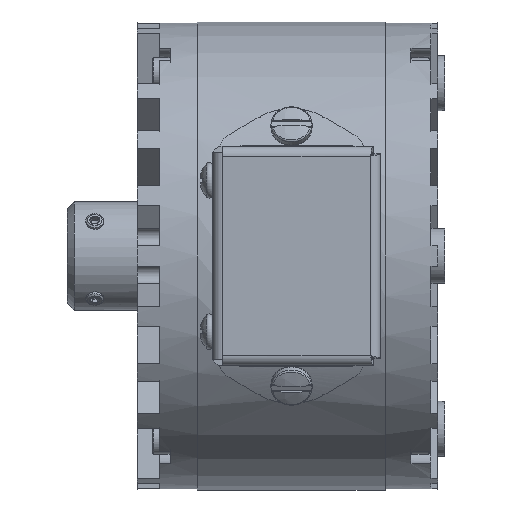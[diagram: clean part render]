
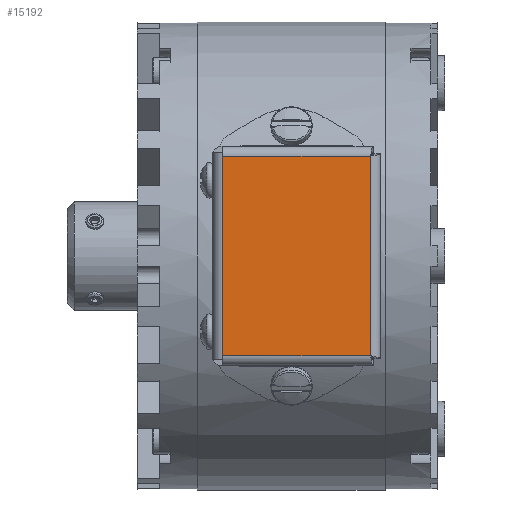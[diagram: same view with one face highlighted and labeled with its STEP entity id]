
A CAD part, left-side view. The second image highlights one B-rep face of the part: STEP entity #15192.
In plain terms, the highlighted planar face has unit normal (-1, 0, 0).
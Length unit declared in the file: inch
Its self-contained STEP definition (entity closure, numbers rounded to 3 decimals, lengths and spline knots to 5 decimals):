
#362=PLANE('',#16344);
#2046=FACE_OUTER_BOUND('',#3010,.T.);
#3010=EDGE_LOOP('',(#10884,#10885,#10886,#10887));
#4250=LINE('',#24303,#5396);
#4251=LINE('',#24304,#5397);
#4252=LINE('',#24306,#5398);
#4253=LINE('',#24307,#5399);
#5396=VECTOR('',#18751,39.37008);
#5397=VECTOR('',#18752,39.37008);
#5398=VECTOR('',#18753,39.37008);
#5399=VECTOR('',#18754,39.37008);
#6604=VERTEX_POINT('',#23918);
#6613=VERTEX_POINT('',#24010);
#6656=VERTEX_POINT('',#24302);
#6657=VERTEX_POINT('',#24305);
#8276=EDGE_CURVE('',#6613,#6656,#4250,.T.);
#8277=EDGE_CURVE('',#6656,#6604,#4251,.T.);
#8278=EDGE_CURVE('',#6657,#6604,#4252,.T.);
#8279=EDGE_CURVE('',#6657,#6613,#4253,.T.);
#10884=ORIENTED_EDGE('',*,*,#8276,.T.);
#10885=ORIENTED_EDGE('',*,*,#8277,.T.);
#10886=ORIENTED_EDGE('',*,*,#8278,.F.);
#10887=ORIENTED_EDGE('',*,*,#8279,.T.);
#15192=ADVANCED_FACE('',(#2046),#362,.F.);
#16344=AXIS2_PLACEMENT_3D('',#24301,#18749,#18750);
#18749=DIRECTION('center_axis',(1.,0.,0.));
#18750=DIRECTION('ref_axis',(0.,-1.,0.));
#18751=DIRECTION('',(0.,0.,1.));
#18752=DIRECTION('',(0.,1.,0.));
#18753=DIRECTION('',(0.,0.,1.));
#18754=DIRECTION('',(0.,-1.,0.));
#23918=CARTESIAN_POINT('',(-3.493,1.477,0.9065));
#24010=CARTESIAN_POINT('',(-3.493,0.133,-0.9065));
#24301=CARTESIAN_POINT('Origin',(-3.493,1.508,0.));
#24302=CARTESIAN_POINT('',(-3.493,0.133,0.9065));
#24303=CARTESIAN_POINT('',(-3.493,0.133,-0.93043));
#24304=CARTESIAN_POINT('',(-3.493,0.10907,0.9065));
#24305=CARTESIAN_POINT('',(-3.493,1.477,-0.9065));
#24306=CARTESIAN_POINT('',(-3.493,1.477,0.9375));
#24307=CARTESIAN_POINT('',(-3.493,1.477,-0.9065));
